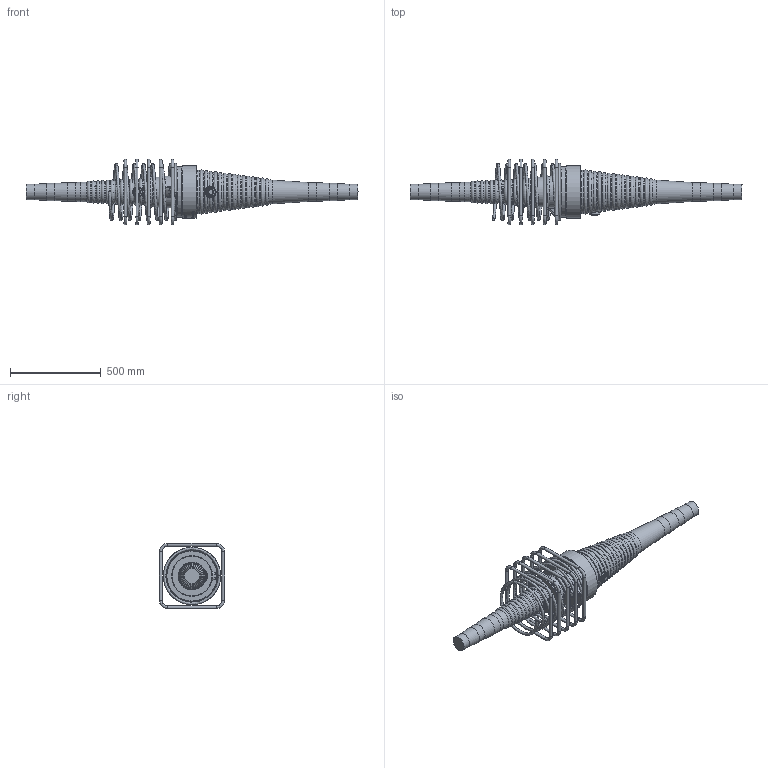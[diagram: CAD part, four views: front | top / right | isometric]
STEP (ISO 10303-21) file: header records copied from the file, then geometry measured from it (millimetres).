
FILE_DESCRIPTION(/* description */ (''),/* implementation_level */ '2;1');
FILE_NAME(/* name */ 'Z:\04 Publications\05 Give-out\BBR\6_3D_Models\BBR VT CONA CMI\BBR VT CONA CMI BT\01506\BBR VT CONA CMI BT 1506_Couler K Assembly_CS-34,28.stp',/* time_stamp */ '2017-05-05T09:01:50+02:00',/* author */ ('IP'),/* organization */ (''),/* preprocessor_version */ 'ST-DEVELOPER v16.1',/* originating_system */ 'Autodesk Inventor 2016',/* authorisation */ '');
FILE_SCHEMA (('AUTOMOTIVE_DESIGN { 1 0 10303 214 3 1 1 }'));
Products named in the file (1): BBR VT CONA CMI BT 1506_Couler K Assembly_CS-34,28
Bounding box: 1825.13 x 360 x 360 mm (x, y, z)
Volume: 36760647.2 mm3; surface area: 1662175.2 mm2
Topology: 7 solids, 8 shells, 978 faces, 2489 edges, 1578 vertices
Faces by surface type: bspline 431, plane 269, torus 128, cylinder 106, cone 34, sphere 10
Full cylindrical faces by diameter (mm): 16 x20, 34 x2, 57 x2, 84 x2, 94 x2, 104 x2, 164 x1, 218 x1, 223.017 x1, 273 x1, 280 x1, 286 x1, 290 x1
Entity records: 42981 total; most frequent: CARTESIAN_POINT 22417, ORIENTED_EDGE 4580, DIRECTION 3048, EDGE_CURVE 2290, VERTEX_POINT 1566, EDGE_LOOP 1228, AXIS2_PLACEMENT_3D 1085, FACE_OUTER_BOUND 978
